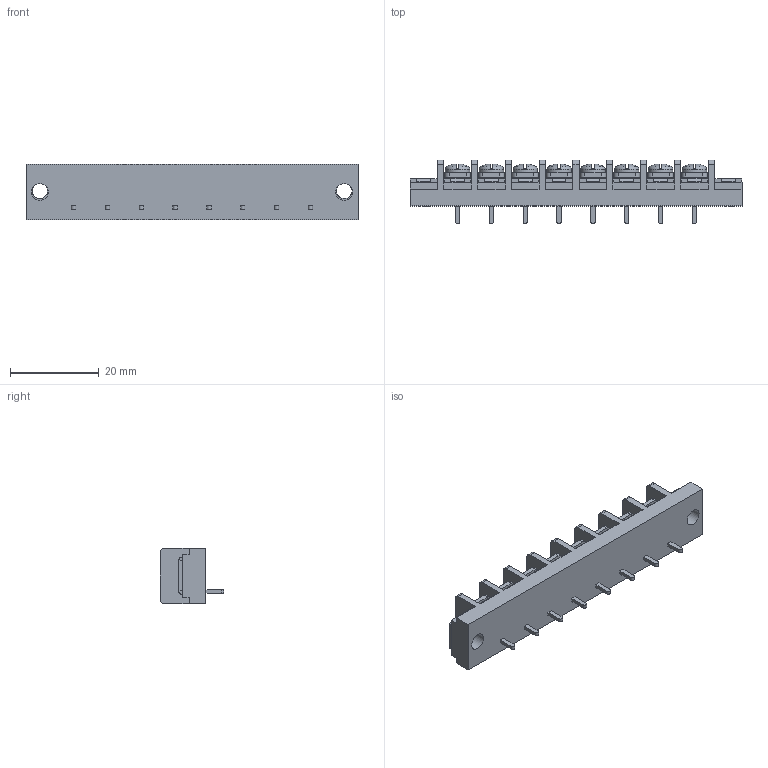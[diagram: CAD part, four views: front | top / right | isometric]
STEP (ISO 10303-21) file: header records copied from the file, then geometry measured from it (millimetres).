
FILE_DESCRIPTION(/* description */ ('Alibre Inc.'),/* implementation_level */ '2;1');
FILE_NAME(/* name */ 'export0',/* time_stamp */ '2015-10-26T17:33:59+09:00',/* author */ (''),/* organization */ (''),/* preprocessor_version */ 'ST-DEVELOPER v14',/* originating_system */ 'Alibre',/* authorisation */ '');
FILE_SCHEMA (('CONFIG_CONTROL_DESIGN'));
Length unit declared in the file: centimetre
Products named in the file (1): ID_1
Bounding box: 74.78 x 14.3 x 12.5 mm (x, y, z)
Volume: 6378.1 mm3; surface area: 5769.8 mm2
Topology: 1 solids, 17 shells, 1220 faces, 3320 edges, 2188 vertices
Faces by surface type: plane 946, cylinder 106, bspline 104, cone 32, torus 16, sphere 16
Full cylindrical faces by diameter (mm): 3 x8, 3.5 x2, 3.8 x2, 5.5 x8
Entity records: 36481 total; most frequent: CARTESIAN_POINT 8117, ORIENTED_EDGE 6496, DIRECTION 4454, EDGE_CURVE 3248, VECTOR 2336, LINE 2336, VERTEX_POINT 2152, AXIS2_PLACEMENT_3D 1485
